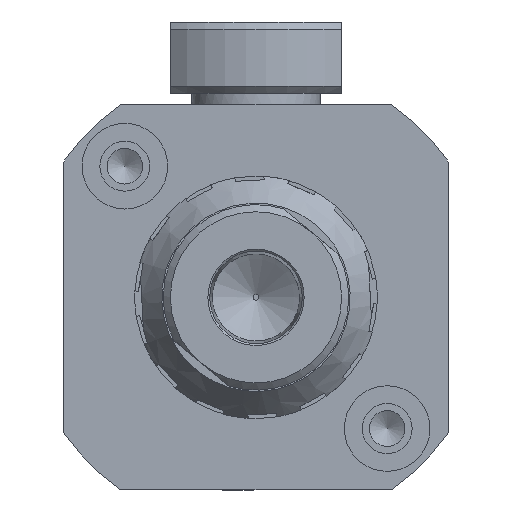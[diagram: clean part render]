
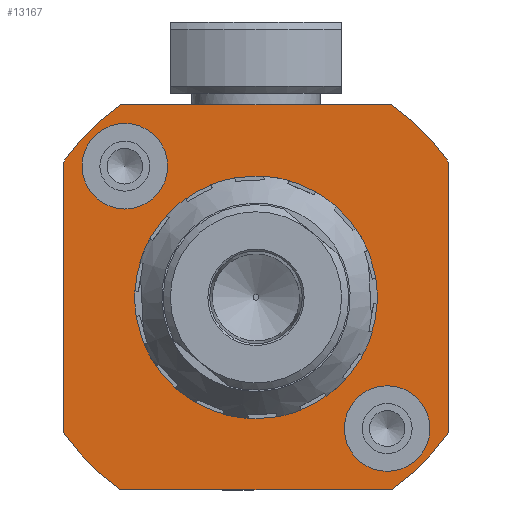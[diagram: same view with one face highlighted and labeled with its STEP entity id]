
A CAD part, front view. The second image highlights one B-rep face of the part: STEP entity #13167.
In plain terms, the highlighted planar face has unit normal (0, -1, 0).
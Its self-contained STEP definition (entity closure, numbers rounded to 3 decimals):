
#40 = CARTESIAN_POINT ( 'NONE',  ( -32.811, -22.045, 997.386 ) ) ;
#979 = LINE ( 'NONE', #20012, #23205 ) ;
#984 = ORIENTED_EDGE ( 'NONE', *, *, #9287, .F. ) ;
#1213 = AXIS2_PLACEMENT_3D ( 'NONE', #40, #16872, #25276 ) ;
#1712 = DIRECTION ( 'NONE',  ( 0., -1., 0. ) ) ;
#1891 = DIRECTION ( 'NONE',  ( 0., 0., 1. ) ) ;
#2107 = CARTESIAN_POINT ( 'NONE',  ( -32.811, -22.045, 997.386 ) ) ;
#2436 = ORIENTED_EDGE ( 'NONE', *, *, #17450, .F. ) ;
#3044 = ORIENTED_EDGE ( 'NONE', *, *, #25400, .F. ) ;
#3216 = DIRECTION ( 'NONE',  ( 0., 0., 1. ) ) ;
#3451 = EDGE_CURVE ( 'NONE', #5736, #8715, #4236, .T. ) ;
#3506 = DIRECTION ( 'NONE',  ( 0., 1., 0. ) ) ;
#3782 = CARTESIAN_POINT ( 'NONE',  ( -23.324, -22.045, 1010.886 ) ) ;
#3835 = FACE_BOUND ( 'NONE', #11830, .T. ) ;
#4045 = CARTESIAN_POINT ( 'NONE',  ( -42.298, -22.045, 1010.886 ) ) ;
#4236 = LINE ( 'NONE', #12687, #5384 ) ;
#4285 = AXIS2_PLACEMENT_3D ( 'NONE', #5626, #27135, #1891 ) ;
#5112 = FACE_BOUND ( 'NONE', #21571, .T. ) ;
#5257 = PLANE ( 'NONE',  #14855 ) ;
#5263 = DIRECTION ( 'NONE',  ( 0., -1., 0. ) ) ;
#5346 = EDGE_CURVE ( 'NONE', #6215, #6215, #17777, .T. ) ;
#5384 = VECTOR ( 'NONE', #21080, 1000. ) ;
#5505 = LINE ( 'NONE', #22369, #8682 ) ;
#5626 = CARTESIAN_POINT ( 'NONE',  ( -42.003, -22.045, 1006.578 ) ) ;
#5717 = EDGE_CURVE ( 'NONE', #8715, #26813, #12504, .T. ) ;
#5736 = VERTEX_POINT ( 'NONE', #15458 ) ;
#6215 = VERTEX_POINT ( 'NONE', #6722 ) ;
#6722 = CARTESIAN_POINT ( 'NONE',  ( -23.618, -22.045, 991.194 ) ) ;
#7028 = CARTESIAN_POINT ( 'NONE',  ( -32.811, -22.045, 997.386 ) ) ;
#7066 = ORIENTED_EDGE ( 'NONE', *, *, #17024, .F. ) ;
#7318 = FACE_BOUND ( 'NONE', #14968, .T. ) ;
#8189 = DIRECTION ( 'NONE',  ( 0., 0., 1. ) ) ;
#8547 = EDGE_LOOP ( 'NONE', ( #7066, #2436, #13592, #984, #20489, #19420, #10765, #15270 ) ) ;
#8682 = VECTOR ( 'NONE', #16703, 1000. ) ;
#8715 = VERTEX_POINT ( 'NONE', #17294 ) ;
#9110 = DIRECTION ( 'NONE',  ( 0., 1., 0. ) ) ;
#9287 = EDGE_CURVE ( 'NONE', #26813, #9646, #5505, .T. ) ;
#9524 = DIRECTION ( 'NONE',  ( 0., 0., -1. ) ) ;
#9566 = AXIS2_PLACEMENT_3D ( 'NONE', #17723, #3506, #26266 ) ;
#9571 = CIRCLE ( 'NONE', #24963, 16.5 ) ;
#9646 = VERTEX_POINT ( 'NONE', #25269 ) ;
#9868 = CARTESIAN_POINT ( 'NONE',  ( -46.311, -22.045, 997.386 ) ) ;
#10765 = ORIENTED_EDGE ( 'NONE', *, *, #13626, .F. ) ;
#11830 = EDGE_LOOP ( 'NONE', ( #17566 ) ) ;
#12504 = CIRCLE ( 'NONE', #17328, 16.5 ) ;
#12624 = CARTESIAN_POINT ( 'NONE',  ( -46.311, -22.045, 987.899 ) ) ;
#12687 = CARTESIAN_POINT ( 'NONE',  ( -19.311, -22.045, 997.386 ) ) ;
#12735 = VERTEX_POINT ( 'NONE', #12911 ) ;
#12911 = CARTESIAN_POINT ( 'NONE',  ( -46.311, -22.045, 1006.873 ) ) ;
#13167 = ADVANCED_FACE ( 'NONE', ( #7318, #15757, #5112, #3835 ), #5257, .F. ) ;
#13592 = ORIENTED_EDGE ( 'NONE', *, *, #17670, .F. ) ;
#13626 = EDGE_CURVE ( 'NONE', #26547, #5736, #21430, .T. ) ;
#13646 = AXIS2_PLACEMENT_3D ( 'NONE', #2107, #1712, #8189 ) ;
#14112 = DIRECTION ( 'NONE',  ( 0., 0., 1. ) ) ;
#14250 = CARTESIAN_POINT ( 'NONE',  ( -32.811, -22.045, 1005.886 ) ) ;
#14855 = AXIS2_PLACEMENT_3D ( 'NONE', #19880, #22736, #24796 ) ;
#14968 = EDGE_LOOP ( 'NONE', ( #3044 ) ) ;
#15270 = ORIENTED_EDGE ( 'NONE', *, *, #16630, .F. ) ;
#15458 = CARTESIAN_POINT ( 'NONE',  ( -19.311, -22.045, 1006.873 ) ) ;
#15743 = CIRCLE ( 'NONE', #4285, 3. ) ;
#15757 = FACE_OUTER_BOUND ( 'NONE', #8547, .T. ) ;
#16152 = CARTESIAN_POINT ( 'NONE',  ( -23.618, -22.045, 988.194 ) ) ;
#16630 = EDGE_CURVE ( 'NONE', #19717, #26547, #979, .T. ) ;
#16703 = DIRECTION ( 'NONE',  ( -1., 0., 0. ) ) ;
#16872 = DIRECTION ( 'NONE',  ( 0., 1., 0. ) ) ;
#17024 = EDGE_CURVE ( 'NONE', #12735, #19717, #9571, .T. ) ;
#17290 = EDGE_CURVE ( 'NONE', #18677, #18677, #15743, .T. ) ;
#17294 = CARTESIAN_POINT ( 'NONE',  ( -19.311, -22.045, 987.899 ) ) ;
#17328 = AXIS2_PLACEMENT_3D ( 'NONE', #7028, #9110, #21112 ) ;
#17450 = EDGE_CURVE ( 'NONE', #26674, #12735, #22270, .T. ) ;
#17553 = DIRECTION ( 'NONE',  ( 1., 0., 0. ) ) ;
#17566 = ORIENTED_EDGE ( 'NONE', *, *, #17290, .F. ) ;
#17670 = EDGE_CURVE ( 'NONE', #9646, #26674, #25897, .T. ) ;
#17723 = CARTESIAN_POINT ( 'NONE',  ( -32.811, -22.045, 997.386 ) ) ;
#17777 = CIRCLE ( 'NONE', #22171, 3. ) ;
#17931 = DIRECTION ( 'NONE',  ( 0., 1., 0. ) ) ;
#18268 = CARTESIAN_POINT ( 'NONE',  ( -42.003, -22.045, 1009.578 ) ) ;
#18677 = VERTEX_POINT ( 'NONE', #18268 ) ;
#19354 = CIRCLE ( 'NONE', #13646, 8.5 ) ;
#19420 = ORIENTED_EDGE ( 'NONE', *, *, #3451, .F. ) ;
#19492 = CARTESIAN_POINT ( 'NONE',  ( -23.324, -22.045, 983.886 ) ) ;
#19717 = VERTEX_POINT ( 'NONE', #4045 ) ;
#19880 = CARTESIAN_POINT ( 'NONE',  ( -32.811, -22.045, 997.386 ) ) ;
#19979 = CARTESIAN_POINT ( 'NONE',  ( -32.811, -22.045, 997.386 ) ) ;
#20012 = CARTESIAN_POINT ( 'NONE',  ( -32.811, -22.045, 1010.886 ) ) ;
#20489 = ORIENTED_EDGE ( 'NONE', *, *, #5717, .F. ) ;
#21080 = DIRECTION ( 'NONE',  ( 0., 0., -1. ) ) ;
#21112 = DIRECTION ( 'NONE',  ( 0., 0., -1. ) ) ;
#21430 = CIRCLE ( 'NONE', #9566, 16.5 ) ;
#21571 = EDGE_LOOP ( 'NONE', ( #22072 ) ) ;
#22072 = ORIENTED_EDGE ( 'NONE', *, *, #5346, .F. ) ;
#22171 = AXIS2_PLACEMENT_3D ( 'NONE', #16152, #5263, #14112 ) ;
#22270 = LINE ( 'NONE', #9868, #26773 ) ;
#22369 = CARTESIAN_POINT ( 'NONE',  ( -32.811, -22.045, 983.886 ) ) ;
#22528 = VERTEX_POINT ( 'NONE', #14250 ) ;
#22736 = DIRECTION ( 'NONE',  ( 0., 1., 0. ) ) ;
#23205 = VECTOR ( 'NONE', #17553, 1000. ) ;
#24796 = DIRECTION ( 'NONE',  ( 0., 0., -1. ) ) ;
#24963 = AXIS2_PLACEMENT_3D ( 'NONE', #19979, #17931, #9524 ) ;
#25269 = CARTESIAN_POINT ( 'NONE',  ( -42.298, -22.045, 983.886 ) ) ;
#25276 = DIRECTION ( 'NONE',  ( 0., 0., -1. ) ) ;
#25400 = EDGE_CURVE ( 'NONE', #22528, #22528, #19354, .T. ) ;
#25897 = CIRCLE ( 'NONE', #1213, 16.5 ) ;
#26266 = DIRECTION ( 'NONE',  ( 0., 0., -1. ) ) ;
#26547 = VERTEX_POINT ( 'NONE', #3782 ) ;
#26674 = VERTEX_POINT ( 'NONE', #12624 ) ;
#26773 = VECTOR ( 'NONE', #3216, 1000. ) ;
#26813 = VERTEX_POINT ( 'NONE', #19492 ) ;
#27135 = DIRECTION ( 'NONE',  ( 0., -1., 0. ) ) ;
